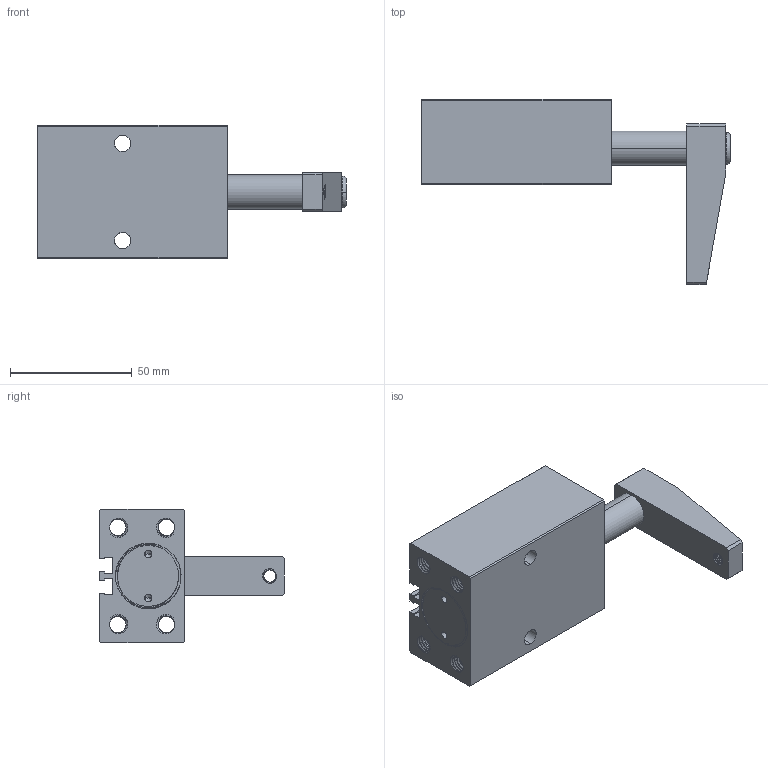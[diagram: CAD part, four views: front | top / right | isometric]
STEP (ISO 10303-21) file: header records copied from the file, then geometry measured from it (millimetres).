
FILE_DESCRIPTION((''),'2;1');
FILE_NAME('PSB-25_ASM','2010-02-02T',('Administrator'),(''),'PRO/ENGINEER BY PARAMETRIC TECHNOLOGY CORPORATION, 2007170','PRO/ENGINEER BY PARAMETRIC TECHNOLOGY CORPORATION, 2007170','');
FILE_SCHEMA(('CONFIG_CONTROL_DESIGN'));
Length unit declared in the file: millimetre
Products named in the file (6): PSB-25BT; PSB-25HSG; PSB-25HG; PSB-25YB; M8X20; PSB-25_ASM
Assembly tree (5 placements, depth 2):
  PSB-25_ASM
    PSB-25BT
    PSB-25HSG
    PSB-25HG
    PSB-25YB
    M8X20
Bounding box: 127 x 76 x 55 mm (x, y, z)
Volume: 133716.6 mm3; surface area: 49829.5 mm2
Topology: 5 solids, 5 shells, 540 faces, 1450 edges, 923 vertices
Faces by surface type: cylinder 346, bspline 86, plane 75, torus 18, cone 15
Entity records: 41400 total; most frequent: CARTESIAN_POINT 29346, ORIENTED_EDGE 2888, DIRECTION 1802, EDGE_CURVE 1444, VERTEX_POINT 923, B_SPLINE_CURVE_WITH_KNOTS 723, AXIS2_PLACEMENT_3D 616, EDGE_LOOP 579
